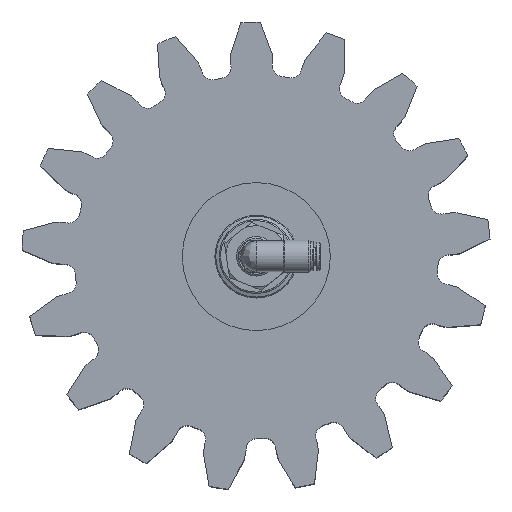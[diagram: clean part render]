
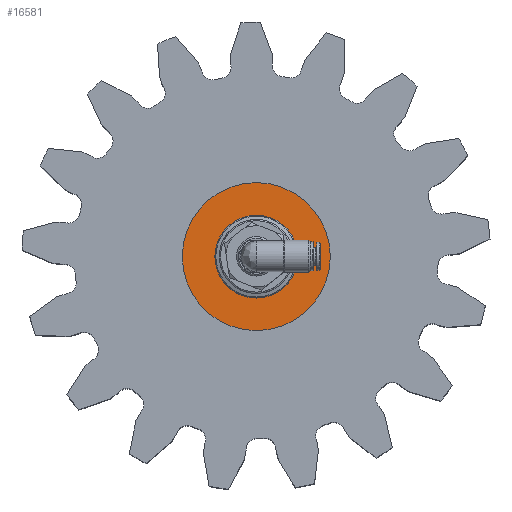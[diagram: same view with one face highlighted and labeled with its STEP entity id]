
A CAD part, top view. The second image highlights one B-rep face of the part: STEP entity #16581.
In plain terms, the highlighted planar face has unit normal (0, 0, 1) as drawn and (0, 1, 0) by its records, which use the part's own axes.
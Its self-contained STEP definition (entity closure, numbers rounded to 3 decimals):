
#295 = CARTESIAN_POINT ( 'NONE',  ( 0., 0.6, 0. ) ) ;
#510 = AXIS2_PLACEMENT_3D ( 'NONE', #295, #12545, #16863 ) ;
#2826 = CARTESIAN_POINT ( 'NONE',  ( 0., 0.6, 16.8 ) ) ;
#3498 = CARTESIAN_POINT ( 'NONE',  ( 0., 0.6, 0. ) ) ;
#4545 = PLANE ( 'NONE',  #19274 ) ;
#4824 = CIRCLE ( 'NONE', #510, 30. ) ;
#4830 = CARTESIAN_POINT ( 'NONE',  ( 0., 0.6, 30. ) ) ;
#4899 = EDGE_LOOP ( 'NONE', ( #24133 ) ) ;
#7515 = DIRECTION ( 'NONE',  ( 0., 1., 0. ) ) ;
#10730 = FACE_OUTER_BOUND ( 'NONE', #4899, .T. ) ;
#11289 = VERTEX_POINT ( 'NONE', #4830 ) ;
#11543 = EDGE_LOOP ( 'NONE', ( #25836 ) ) ;
#12545 = DIRECTION ( 'NONE',  ( 0., 1., 0. ) ) ;
#12749 = DIRECTION ( 'NONE',  ( 0., -1., 0. ) ) ;
#16251 = CIRCLE ( 'NONE', #22297, 16.8 ) ;
#16255 = EDGE_CURVE ( 'NONE', #19249, #19249, #16251, .T. ) ;
#16581 = ADVANCED_FACE ( 'NONE', ( #23029, #10730 ), #4545, .F. ) ;
#16863 = DIRECTION ( 'NONE',  ( 0., 0., 1. ) ) ;
#17066 = CARTESIAN_POINT ( 'NONE',  ( 30., 0.6, 0. ) ) ;
#17192 = DIRECTION ( 'NONE',  ( 0., 0., -1. ) ) ;
#19249 = VERTEX_POINT ( 'NONE', #2826 ) ;
#19274 = AXIS2_PLACEMENT_3D ( 'NONE', #17066, #12749, #17192 ) ;
#22297 = AXIS2_PLACEMENT_3D ( 'NONE', #3498, #7515, #23858 ) ;
#22396 = EDGE_CURVE ( 'NONE', #11289, #11289, #4824, .T. ) ;
#23029 = FACE_BOUND ( 'NONE', #11543, .T. ) ;
#23858 = DIRECTION ( 'NONE',  ( 0., 0., 1. ) ) ;
#24133 = ORIENTED_EDGE ( 'NONE', *, *, #22396, .T. ) ;
#25836 = ORIENTED_EDGE ( 'NONE', *, *, #16255, .F. ) ;
